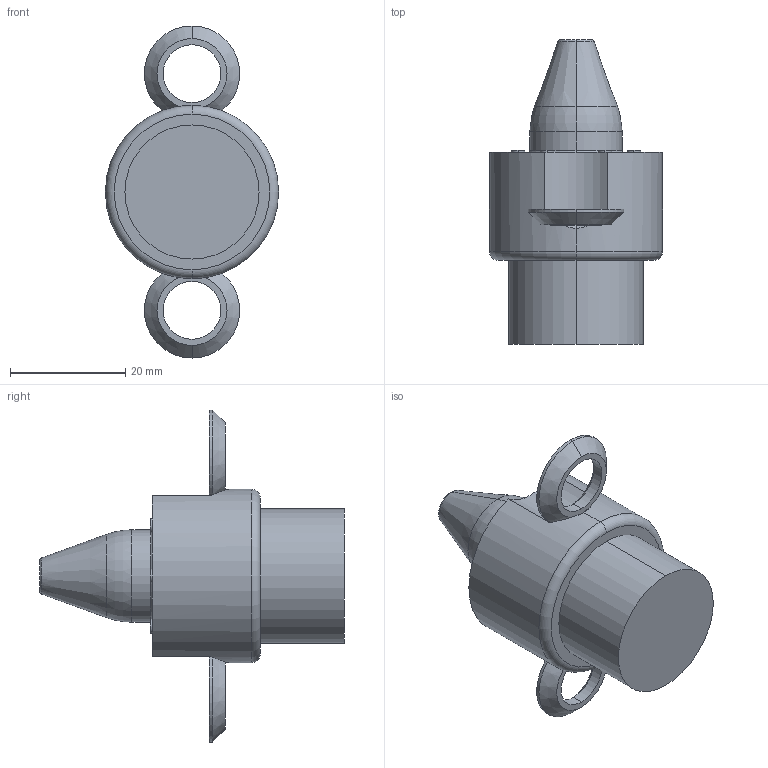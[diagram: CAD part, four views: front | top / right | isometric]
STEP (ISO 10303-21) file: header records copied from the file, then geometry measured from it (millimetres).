
FILE_DESCRIPTION (( 'STEP AP214' ), '1' );
FILE_NAME ('PA-16mm-3.2mm-P-F2.stp', '2020-05-04T11:17:49', ( '' ), ( '' ), 'SwSTEP 2.0', 'SolidWorks 2017', '' );
FILE_SCHEMA (( 'AUTOMOTIVE_DESIGN' ));
Length unit declared in the file: inch
Products named in the file (1): PA-16mm-3.2mm-P-F2
Bounding box: 30 x 52.81 x 57.51 mm (x, y, z)
Volume: 21907.4 mm3; surface area: 5620.7 mm2
Topology: 3 solids, 3 shells, 67 faces, 138 edges, 85 vertices
Faces by surface type: cylinder 28, cone 14, plane 14, torus 11
Entity records: 2036 total; most frequent: DIRECTION 354, CARTESIAN_POINT 351, ORIENTED_EDGE 276, AXIS2_PLACEMENT_3D 156, EDGE_CURVE 138, CIRCLE 88, VERTEX_POINT 85, EDGE_LOOP 79
